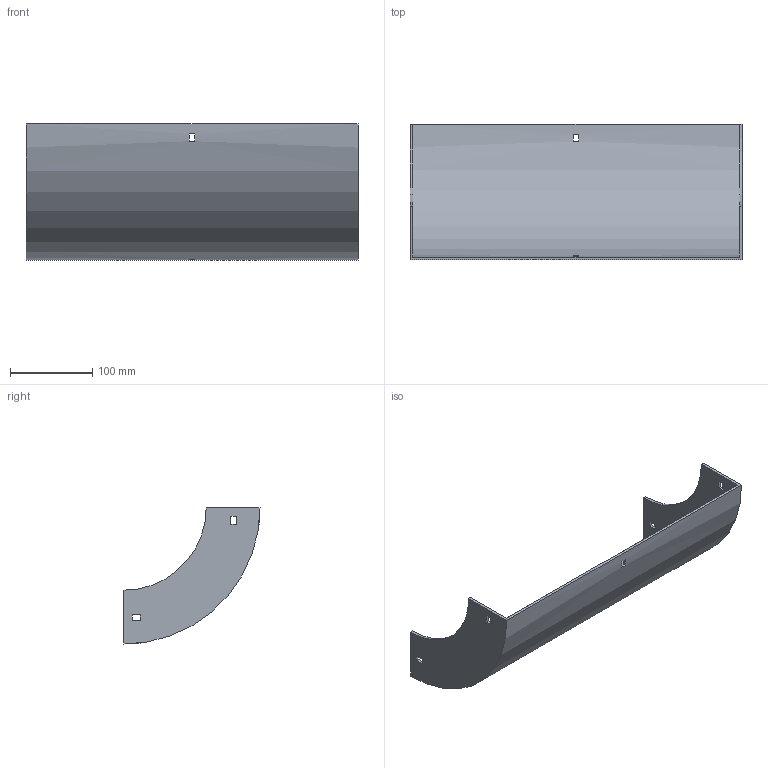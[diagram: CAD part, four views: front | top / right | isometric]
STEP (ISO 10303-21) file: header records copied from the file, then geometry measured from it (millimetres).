
FILE_DESCRIPTION (( 'STEP AP214' ), '1' );
FILE_NAME ('30B1H400.step', '2025-02-21T09:50:28', ( '' ), ( '' ), 'SwSTEP 2.0', 'SolidWorks 2023', '' );
FILE_SCHEMA (( 'AUTOMOTIVE_DESIGN' ));
Length unit declared in the file: millimetre
Products named in the file (1): 30B1H400
Bounding box: 404 x 165.5 x 165.5 mm (x, y, z)
Volume: 451620.5 mm3; surface area: 263577.8 mm2
Topology: 1 solids, 1 shells, 34 faces, 96 edges, 64 vertices
Faces by surface type: plane 30, cylinder 4
Entity records: 1143 total; most frequent: CARTESIAN_POINT 195, ORIENTED_EDGE 192, DIRECTION 182, EDGE_CURVE 96, LINE 80, VECTOR 80, VERTEX_POINT 64, AXIS2_PLACEMENT_3D 51
